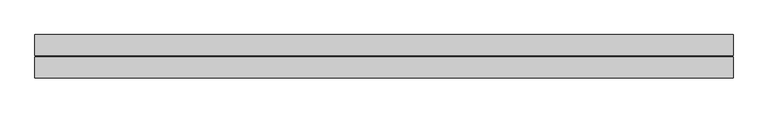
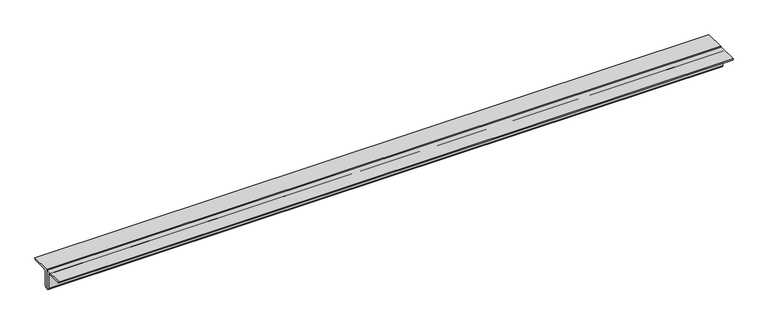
"""IFC4 building model written with IfcOpenShell, lengths in millimetres: beam geometry, Profilati doppi a L : DCED150x12."""

from ifc_helpers import new_model, si_unit, point, frame, frame_2d, origin, place, context, project, spatial, polyline, circle_curve, trimmed, segment, composite_curve, outline, extrude, source, transform, mapped, element, save


def beam_cdd1c6c5(model_context):
    return source(origin(), model_context, "Body", "SweptSolid", [
        extrude(outline(composite_curve([segment(polyline([(6.0, 42.4), (156.0, 42.4)]), True, "CONTINUOUS"), segment(trimmed(circle_curve(frame_2d((141.0, 42.4)), 15.0), [point((156.0, 42.4))], [point((141.0, 27.4))], False, "CARTESIAN"), True, "CONTINUOUS"), segment(polyline([(141.0, 27.4), (36.0, 27.4)]), True, "CONTINUOUS"), segment(trimmed(circle_curve(frame_2d((36.0, 12.4)), 15.0), [point((36.0, 27.4))], [point((21.0, 12.4))], True, "CARTESIAN"), True, "CONTINUOUS"), segment(polyline([(21.0, 12.4), (21.0, -92.6)]), True, "CONTINUOUS"), segment(trimmed(circle_curve(frame_2d((6.0, -92.6)), 15.0), [point((21.0, -92.6))], [point((6.0, -107.6))], False, "CARTESIAN"), True, "CONTINUOUS"), segment(polyline([(6.0, -107.6), (6.0, 42.4)]), True, "CONTINUOUS")], self_intersect=False)), frame((-2398.0, 0.0, 0.0), z_axis=(1.0, 0.0, 0.0), x_axis=(0.0, 1.0, 0.0)), (0.0, 0.0, 1.0), 5021.0),
        extrude(outline(composite_curve([segment(polyline([(-6.0, 42.4), (-6.0, -107.6)]), True, "CONTINUOUS"), segment(trimmed(circle_curve(frame_2d((-6.0, -92.6)), 15.0), [point((-6.0, -107.6))], [point((-21.0, -92.6))], False, "CARTESIAN"), True, "CONTINUOUS"), segment(polyline([(-21.0, -92.6), (-21.0, 12.4)]), True, "CONTINUOUS"), segment(trimmed(circle_curve(frame_2d((-36.0, 12.4)), 15.0), [point((-21.0, 12.4))], [point((-36.0, 27.4))], True, "CARTESIAN"), True, "CONTINUOUS"), segment(polyline([(-36.0, 27.4), (-141.0, 27.4)]), True, "CONTINUOUS"), segment(trimmed(circle_curve(frame_2d((-141.0, 42.4)), 15.0), [point((-141.0, 27.4))], [point((-156.0, 42.4))], False, "CARTESIAN"), True, "CONTINUOUS"), segment(polyline([(-156.0, 42.4), (-6.0, 42.4)]), True, "CONTINUOUS")], self_intersect=False)), frame((-2398.0, 0.0, 0.0), z_axis=(1.0, 0.0, 0.0), x_axis=(0.0, 1.0, 0.0)), (0.0, 0.0, 1.0), 5021.0),
    ])


if __name__ == "__main__":
    model = new_model("IFC4")
    model_context = context("Model", 3, world=origin())
    ifc_project = project(units=[si_unit("LENGTHUNIT", "METRE", prefix="MILLI")], contexts=[model_context])
    site = spatial("IfcSite", under=ifc_project)
    building = spatial("IfcBuilding", under=site)
    placement = place(None, origin())
    beam_shape = beam_cdd1c6c5(model_context)
    element("IfcBeam", 1, ObjectType="Profilati doppi a L : DCED150x12", at=placement, inside=building, context=model_context, shape_type="MappedRepresentation", body=[
        mapped(beam_shape, transform((0.0, 0.0, 0.0), x_axis=(1.0, 0.0, 0.0), y_axis=(0.0, 1.0, 0.0), z_axis=(0.0, 0.0, 1.0))),
    ])
    save(model, "model.ifc")
